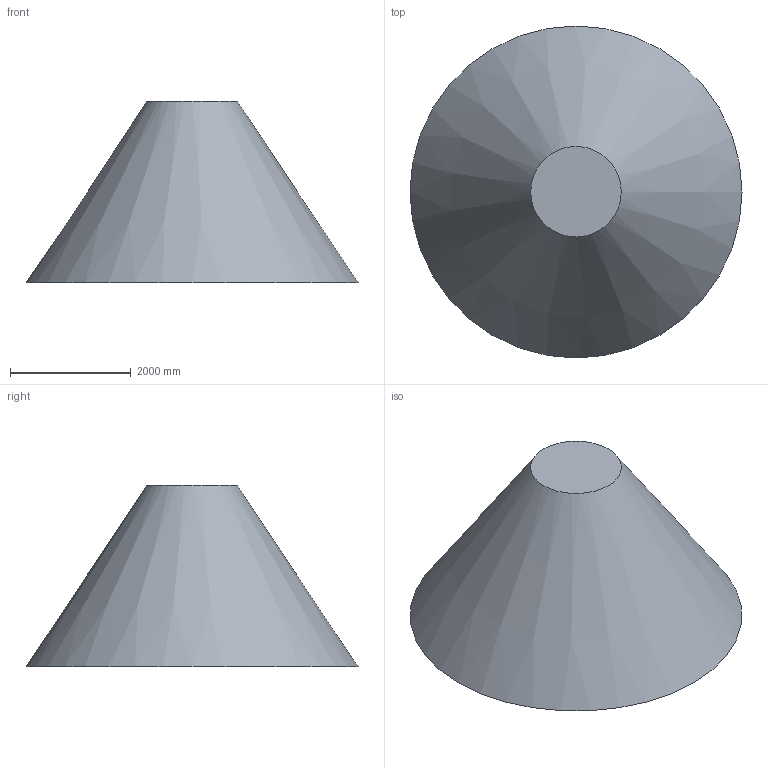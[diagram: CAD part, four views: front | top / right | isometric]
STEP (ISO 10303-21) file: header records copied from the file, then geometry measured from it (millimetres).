
FILE_DESCRIPTION(('Open CASCADE Model'),'2;1');
FILE_NAME('Open CASCADE Shape Model','2026-05-26T13:18:46',('Author'),( 'Open CASCADE'),'Open CASCADE STEP processor 7.8','build123d', 'Unknown');
FILE_SCHEMA(('AUTOMOTIVE_DESIGN { 1 0 10303 214 1 1 1 1 }'));
Length unit declared in the file: millimetre
Products named in the file (2): =>[0:1:1:2]; COMPOUND
Assembly tree (1 placements, depth 2):
  =>[0:1:1:2]
    COMPOUND
Bounding box: 5500 x 5500 x 3000 mm (x, y, z)
Volume: 32004975158.4 mm3; surface area: 65170547.2 mm2
Topology: 1 solids, 1 shells, 3 faces, 3 edges, 2 vertices
Faces by surface type: plane 2, cone 1
Entity records: 123 total; most frequent: CARTESIAN_POINT 19, DIRECTION 18, AXIS2_PLACEMENT_3D 7, ORIENTED_EDGE 6, PCURVE 6, DEFINITIONAL_REPRESENTATION 6, CIRCLE 4, PRODUCT_DEFINITION_SHAPE 3
